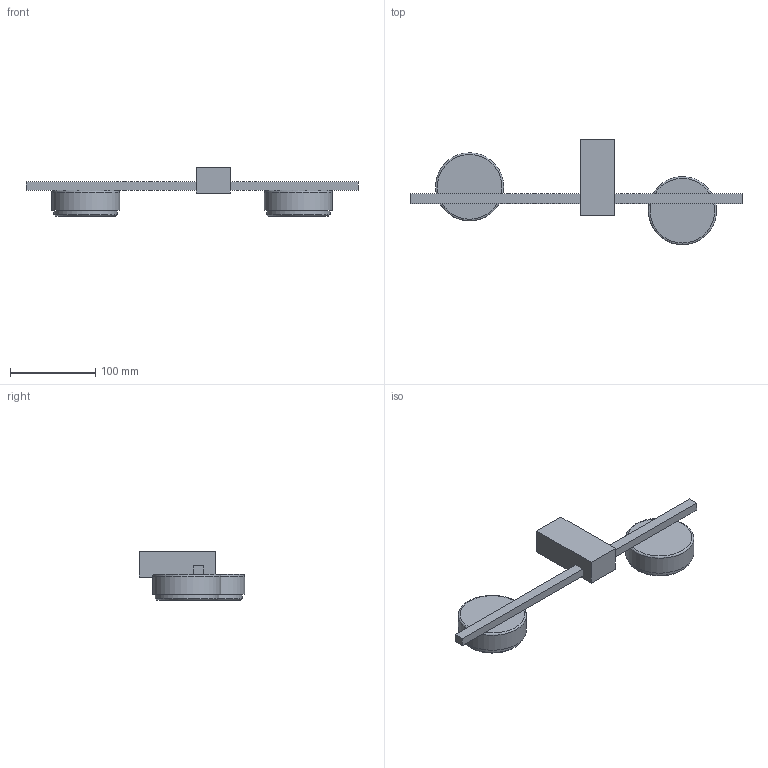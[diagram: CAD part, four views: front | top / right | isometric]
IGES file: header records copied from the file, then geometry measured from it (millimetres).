
Start section: SolidWorks IGES file using analytic representation for surfaces
Global section: file name: X:\PRODUKT\Modele 3D_WWW\_KOLEKCJE WWW\PILLS\8264\PILLS-II-8264.IGS; native system: SolidWorks 2021; preprocessor: SolidWorks 2021; author: gabriela.tworek; date: 221212.095902; units: millimetre
Bounding box: 390 x 123.95 x 57.55 mm (x, y, z)
Surface area: 83922.4 mm2 (no closed solid volume)
Topology: 0 solids, 0 shells, 28 faces, 80 edges, 72 vertices
Faces by surface type: bspline 20, revolution 8
